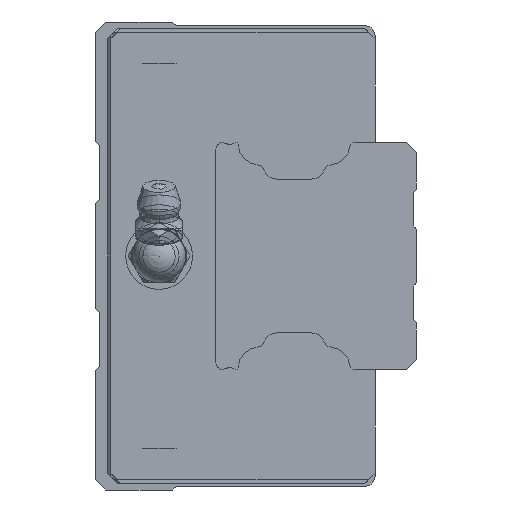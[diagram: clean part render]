
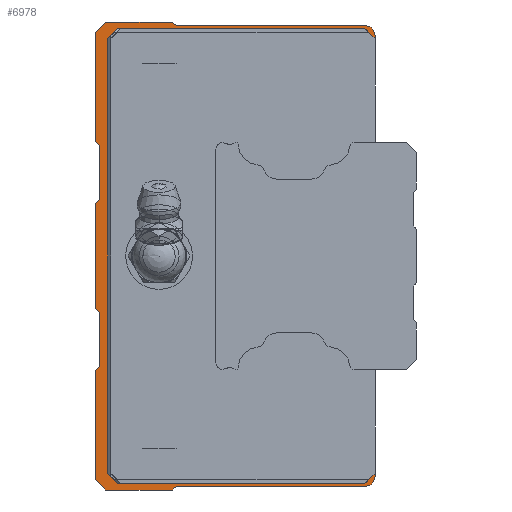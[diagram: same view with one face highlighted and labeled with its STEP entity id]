
A CAD part, left-side view. The second image highlights one B-rep face of the part: STEP entity #6978.
In plain terms, the highlighted planar face has unit normal (-1, 0, 0).
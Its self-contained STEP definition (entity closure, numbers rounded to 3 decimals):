
#75=LINE('',#10916,#553);
#84=LINE('',#10936,#562);
#93=LINE('',#10954,#571);
#119=LINE('',#11010,#597);
#127=LINE('',#11027,#605);
#135=LINE('',#11044,#613);
#160=LINE('',#11095,#638);
#165=LINE('',#11105,#643);
#169=LINE('',#11112,#647);
#173=LINE('',#11119,#651);
#177=LINE('',#11128,#655);
#180=LINE('',#11134,#658);
#184=LINE('',#11146,#662);
#188=LINE('',#11161,#666);
#192=LINE('',#11173,#670);
#195=LINE('',#11179,#673);
#198=LINE('',#11185,#676);
#201=LINE('',#11193,#679);
#204=LINE('',#11199,#682);
#208=LINE('',#11211,#686);
#212=LINE('',#11223,#690);
#215=LINE('',#11231,#693);
#218=LINE('',#11237,#696);
#222=LINE('',#11249,#700);
#226=LINE('',#11261,#704);
#229=LINE('',#11269,#707);
#553=VECTOR('',#8455,1000.);
#562=VECTOR('',#8470,1000.);
#571=VECTOR('',#8483,1000.);
#597=VECTOR('',#8523,1000.);
#605=VECTOR('',#8535,1000.);
#613=VECTOR('',#8549,1000.);
#638=VECTOR('',#8590,1000.);
#643=VECTOR('',#8597,1000.);
#647=VECTOR('',#8603,1000.);
#651=VECTOR('',#8609,1000.);
#655=VECTOR('',#8615,1000.);
#658=VECTOR('',#8620,1000.);
#662=VECTOR('',#8632,1000.);
#666=VECTOR('',#8650,1000.);
#670=VECTOR('',#8662,1000.);
#673=VECTOR('',#8667,1000.);
#676=VECTOR('',#8672,1000.);
#679=VECTOR('',#8679,1000.);
#682=VECTOR('',#8684,1000.);
#686=VECTOR('',#8696,1000.);
#690=VECTOR('',#8708,1000.);
#693=VECTOR('',#8715,1000.);
#696=VECTOR('',#8720,1000.);
#700=VECTOR('',#8732,1000.);
#704=VECTOR('',#8744,1000.);
#707=VECTOR('',#8751,1000.);
#1063=PLANE('',#7496);
#1591=CIRCLE('',#7455,0.5);
#1593=CIRCLE('',#7459,1.5);
#1595=CIRCLE('',#7462,1.5);
#1597=CIRCLE('',#7466,0.5);
#1600=CIRCLE('',#7475,0.5);
#1602=CIRCLE('',#7479,0.5);
#1605=CIRCLE('',#7486,0.5);
#1607=CIRCLE('',#7490,0.5);
#2329=ORIENTED_EDGE('',*,*,#3996,.T.);
#2330=ORIENTED_EDGE('',*,*,#4005,.T.);
#2331=ORIENTED_EDGE('',*,*,#4080,.F.);
#2332=ORIENTED_EDGE('',*,*,#4104,.F.);
#2333=ORIENTED_EDGE('',*,*,#4101,.F.);
#2334=ORIENTED_EDGE('',*,*,#4098,.T.);
#2335=ORIENTED_EDGE('',*,*,#4095,.F.);
#2336=ORIENTED_EDGE('',*,*,#4092,.F.);
#2337=ORIENTED_EDGE('',*,*,#4088,.F.);
#2338=ORIENTED_EDGE('',*,*,#4163,.F.);
#2339=ORIENTED_EDGE('',*,*,#4159,.F.);
#2340=ORIENTED_EDGE('',*,*,#4156,.T.);
#2341=ORIENTED_EDGE('',*,*,#4153,.F.);
#2342=ORIENTED_EDGE('',*,*,#4150,.T.);
#2343=ORIENTED_EDGE('',*,*,#4147,.F.);
#2344=ORIENTED_EDGE('',*,*,#4144,.F.);
#2345=ORIENTED_EDGE('',*,*,#4140,.F.);
#2346=ORIENTED_EDGE('',*,*,#4137,.T.);
#2347=ORIENTED_EDGE('',*,*,#4134,.F.);
#2348=ORIENTED_EDGE('',*,*,#4131,.T.);
#2349=ORIENTED_EDGE('',*,*,#4128,.F.);
#2350=ORIENTED_EDGE('',*,*,#4125,.F.);
#2351=ORIENTED_EDGE('',*,*,#4121,.F.);
#2352=ORIENTED_EDGE('',*,*,#4118,.F.);
#2353=ORIENTED_EDGE('',*,*,#4115,.F.);
#2354=ORIENTED_EDGE('',*,*,#4112,.T.);
#2355=ORIENTED_EDGE('',*,*,#4109,.F.);
#2356=ORIENTED_EDGE('',*,*,#4106,.F.);
#2357=ORIENTED_EDGE('',*,*,#4084,.F.);
#2358=ORIENTED_EDGE('',*,*,#4040,.T.);
#2359=ORIENTED_EDGE('',*,*,#4049,.T.);
#2360=ORIENTED_EDGE('',*,*,#4032,.T.);
#2361=ORIENTED_EDGE('',*,*,#4075,.T.);
#2362=ORIENTED_EDGE('',*,*,#3986,.T.);
#3986=EDGE_CURVE('',#4961,#4960,#75,.T.);
#3996=EDGE_CURVE('',#4960,#4968,#84,.T.);
#4005=EDGE_CURVE('',#4968,#4975,#93,.T.);
#4032=EDGE_CURVE('',#4999,#4998,#119,.T.);
#4040=EDGE_CURVE('',#5006,#5005,#127,.T.);
#4049=EDGE_CURVE('',#5005,#4999,#135,.T.);
#4075=EDGE_CURVE('',#4998,#4961,#160,.T.);
#4080=EDGE_CURVE('',#5033,#4975,#165,.T.);
#4084=EDGE_CURVE('',#5006,#5036,#169,.T.);
#4088=EDGE_CURVE('',#5038,#5039,#173,.T.);
#4092=EDGE_CURVE('',#5039,#5042,#177,.T.);
#4095=EDGE_CURVE('',#5042,#5044,#180,.T.);
#4098=EDGE_CURVE('',#5046,#5044,#1591,.T.);
#4101=EDGE_CURVE('',#5046,#5048,#184,.T.);
#4104=EDGE_CURVE('',#5048,#5033,#1593,.T.);
#4106=EDGE_CURVE('',#5036,#5050,#1595,.T.);
#4109=EDGE_CURVE('',#5050,#5052,#188,.T.);
#4112=EDGE_CURVE('',#5054,#5052,#1597,.T.);
#4115=EDGE_CURVE('',#5054,#5056,#192,.T.);
#4118=EDGE_CURVE('',#5056,#5058,#195,.T.);
#4121=EDGE_CURVE('',#5058,#5060,#198,.T.);
#4125=EDGE_CURVE('',#5060,#5063,#201,.T.);
#4128=EDGE_CURVE('',#5063,#5065,#204,.T.);
#4131=EDGE_CURVE('',#5067,#5065,#1600,.T.);
#4134=EDGE_CURVE('',#5067,#5069,#208,.T.);
#4137=EDGE_CURVE('',#5071,#5069,#1602,.T.);
#4140=EDGE_CURVE('',#5071,#5073,#212,.T.);
#4144=EDGE_CURVE('',#5073,#5076,#215,.T.);
#4147=EDGE_CURVE('',#5076,#5078,#218,.T.);
#4150=EDGE_CURVE('',#5080,#5078,#1605,.T.);
#4153=EDGE_CURVE('',#5080,#5082,#222,.T.);
#4156=EDGE_CURVE('',#5084,#5082,#1607,.T.);
#4159=EDGE_CURVE('',#5084,#5086,#226,.T.);
#4163=EDGE_CURVE('',#5086,#5038,#229,.T.);
#4960=VERTEX_POINT('',#10915);
#4961=VERTEX_POINT('',#10917);
#4968=VERTEX_POINT('',#10935);
#4975=VERTEX_POINT('',#10953);
#4998=VERTEX_POINT('',#11009);
#4999=VERTEX_POINT('',#11011);
#5005=VERTEX_POINT('',#11026);
#5006=VERTEX_POINT('',#11028);
#5033=VERTEX_POINT('',#11104);
#5036=VERTEX_POINT('',#11113);
#5038=VERTEX_POINT('',#11120);
#5039=VERTEX_POINT('',#11121);
#5042=VERTEX_POINT('',#11129);
#5044=VERTEX_POINT('',#11135);
#5046=VERTEX_POINT('',#11141);
#5048=VERTEX_POINT('',#11147);
#5050=VERTEX_POINT('',#11156);
#5052=VERTEX_POINT('',#11162);
#5054=VERTEX_POINT('',#11168);
#5056=VERTEX_POINT('',#11174);
#5058=VERTEX_POINT('',#11180);
#5060=VERTEX_POINT('',#11186);
#5063=VERTEX_POINT('',#11194);
#5065=VERTEX_POINT('',#11200);
#5067=VERTEX_POINT('',#11206);
#5069=VERTEX_POINT('',#11212);
#5071=VERTEX_POINT('',#11218);
#5073=VERTEX_POINT('',#11224);
#5076=VERTEX_POINT('',#11232);
#5078=VERTEX_POINT('',#11238);
#5080=VERTEX_POINT('',#11244);
#5082=VERTEX_POINT('',#11250);
#5084=VERTEX_POINT('',#11256);
#5086=VERTEX_POINT('',#11262);
#5726=EDGE_LOOP('',(#2329,#2330,#2331,#2332,#2333,#2334,#2335,#2336,#2337,
#2338,#2339,#2340,#2341,#2342,#2343,#2344,#2345,#2346,#2347,#2348,#2349,
#2350,#2351,#2352,#2353,#2354,#2355,#2356,#2357,#2358,#2359,#2360,#2361,
#2362));
#6349=FACE_BOUND('',#5726,.T.);
#6978=ADVANCED_FACE('',(#6349),#1063,.F.);
#7455=AXIS2_PLACEMENT_3D('',#11140,#8625,#8626);
#7459=AXIS2_PLACEMENT_3D('',#11152,#8637,#8638);
#7462=AXIS2_PLACEMENT_3D('',#11155,#8643,#8644);
#7466=AXIS2_PLACEMENT_3D('',#11167,#8655,#8656);
#7475=AXIS2_PLACEMENT_3D('',#11205,#8689,#8690);
#7479=AXIS2_PLACEMENT_3D('',#11217,#8701,#8702);
#7486=AXIS2_PLACEMENT_3D('',#11243,#8725,#8726);
#7490=AXIS2_PLACEMENT_3D('',#11255,#8737,#8738);
#7496=AXIS2_PLACEMENT_3D('',#11272,#8755,#8756);
#8455=DIRECTION('',(0.,-0.707,0.707));
#8470=DIRECTION('',(0.,-1.,0.));
#8483=DIRECTION('',(0.,-0.707,-0.707));
#8523=DIRECTION('',(0.,0.707,0.707));
#8535=DIRECTION('',(0.,0.707,-0.707));
#8549=DIRECTION('',(0.,1.,0.));
#8590=DIRECTION('',(0.,0.,1.));
#8597=DIRECTION('',(0.,0.,-1.));
#8603=DIRECTION('',(0.,0.,-1.));
#8609=DIRECTION('',(0.,-0.707,0.707));
#8615=DIRECTION('',(0.,-1.,0.));
#8620=DIRECTION('',(0.,-0.707,-0.707));
#8625=DIRECTION('',(1.,0.,0.));
#8626=DIRECTION('',(0.,0.,-1.));
#8632=DIRECTION('',(0.,-1.,0.));
#8637=DIRECTION('',(1.,0.,0.));
#8638=DIRECTION('',(0.,0.,-1.));
#8643=DIRECTION('',(1.,0.,0.));
#8644=DIRECTION('',(0.,0.,-1.));
#8650=DIRECTION('',(0.,1.,0.));
#8655=DIRECTION('',(1.,0.,0.));
#8656=DIRECTION('',(0.,0.,-1.));
#8662=DIRECTION('',(0.,0.707,-0.707));
#8667=DIRECTION('',(0.,1.,0.));
#8672=DIRECTION('',(0.,0.707,0.707));
#8679=DIRECTION('',(0.,0.,1.));
#8684=DIRECTION('',(0.,-0.707,0.707));
#8689=DIRECTION('',(1.,0.,0.));
#8690=DIRECTION('',(0.,0.,-1.));
#8696=DIRECTION('',(0.,0.,1.));
#8701=DIRECTION('',(1.,0.,0.));
#8702=DIRECTION('',(0.,0.,-1.));
#8708=DIRECTION('',(0.,0.707,0.707));
#8715=DIRECTION('',(0.,0.,1.));
#8720=DIRECTION('',(0.,-0.707,0.707));
#8725=DIRECTION('',(1.,0.,0.));
#8726=DIRECTION('',(0.,0.,-1.));
#8732=DIRECTION('',(0.,0.,1.));
#8737=DIRECTION('',(1.,0.,0.));
#8738=DIRECTION('',(0.,0.,-1.));
#8744=DIRECTION('',(0.,0.707,0.707));
#8751=DIRECTION('',(0.,0.,1.));
#8755=DIRECTION('',(1.,0.,0.));
#8756=DIRECTION('',(0.,0.,-1.));
#10915=CARTESIAN_POINT('',(-24.1,38.5,34.));
#10916=CARTESIAN_POINT('',(-24.1,40.,32.5));
#10917=CARTESIAN_POINT('',(-24.1,40.,32.5));
#10935=CARTESIAN_POINT('',(-24.1,1.5,34.));
#10936=CARTESIAN_POINT('',(-24.1,38.5,34.));
#10953=CARTESIAN_POINT('',(-24.1,0.,32.5));
#10954=CARTESIAN_POINT('',(-24.1,1.5,34.));
#11009=CARTESIAN_POINT('',(-24.1,40.,-32.5));
#11010=CARTESIAN_POINT('',(-24.1,38.5,-34.));
#11011=CARTESIAN_POINT('',(-24.1,38.5,-34.));
#11026=CARTESIAN_POINT('',(-24.1,1.5,-34.));
#11027=CARTESIAN_POINT('',(-24.1,0.,-32.5));
#11028=CARTESIAN_POINT('',(-24.1,0.,-32.5));
#11044=CARTESIAN_POINT('',(-24.1,1.5,-34.));
#11095=CARTESIAN_POINT('',(-24.1,40.,-32.5));
#11104=CARTESIAN_POINT('',(-24.1,0.,33.));
#11105=CARTESIAN_POINT('',(-24.1,0.,33.));
#11112=CARTESIAN_POINT('',(-24.1,0.,33.));
#11113=CARTESIAN_POINT('',(-24.1,0.,-33.));
#11119=CARTESIAN_POINT('',(-24.1,41.8,33.5));
#11120=CARTESIAN_POINT('',(-24.1,41.8,33.5));
#11121=CARTESIAN_POINT('',(-24.1,40.3,35.));
#11128=CARTESIAN_POINT('',(-24.1,40.3,35.));
#11129=CARTESIAN_POINT('',(-24.1,30.3,35.));
#11134=CARTESIAN_POINT('',(-24.1,30.3,35.));
#11135=CARTESIAN_POINT('',(-24.1,29.946,34.646));
#11140=CARTESIAN_POINT('',(-24.1,29.593,35.));
#11141=CARTESIAN_POINT('',(-24.1,29.593,34.5));
#11146=CARTESIAN_POINT('',(-24.1,29.593,34.5));
#11147=CARTESIAN_POINT('',(-24.1,1.5,34.5));
#11152=CARTESIAN_POINT('',(-24.1,1.5,33.));
#11155=CARTESIAN_POINT('',(-24.1,1.5,-33.));
#11156=CARTESIAN_POINT('',(-24.1,1.5,-34.5));
#11161=CARTESIAN_POINT('',(-24.1,1.5,-34.5));
#11162=CARTESIAN_POINT('',(-24.1,29.593,-34.5));
#11167=CARTESIAN_POINT('',(-24.1,29.593,-35.));
#11168=CARTESIAN_POINT('',(-24.1,29.946,-34.646));
#11173=CARTESIAN_POINT('',(-24.1,29.946,-34.646));
#11174=CARTESIAN_POINT('',(-24.1,30.3,-35.));
#11179=CARTESIAN_POINT('',(-24.1,30.3,-35.));
#11180=CARTESIAN_POINT('',(-24.1,40.3,-35.));
#11185=CARTESIAN_POINT('',(-24.1,40.3,-35.));
#11186=CARTESIAN_POINT('',(-24.1,41.8,-33.5));
#11193=CARTESIAN_POINT('',(-24.1,41.8,-33.5));
#11194=CARTESIAN_POINT('',(-24.1,41.8,-17.1));
#11199=CARTESIAN_POINT('',(-24.1,41.8,-17.1));
#11200=CARTESIAN_POINT('',(-24.1,41.346,-16.646));
#11205=CARTESIAN_POINT('',(-24.1,41.7,-16.293));
#11206=CARTESIAN_POINT('',(-24.1,41.2,-16.293));
#11211=CARTESIAN_POINT('',(-24.1,41.2,-16.293));
#11212=CARTESIAN_POINT('',(-24.1,41.2,-8.707));
#11217=CARTESIAN_POINT('',(-24.1,41.7,-8.707));
#11218=CARTESIAN_POINT('',(-24.1,41.346,-8.354));
#11223=CARTESIAN_POINT('',(-24.1,41.346,-8.354));
#11224=CARTESIAN_POINT('',(-24.1,41.8,-7.9));
#11231=CARTESIAN_POINT('',(-24.1,41.8,-7.9));
#11232=CARTESIAN_POINT('',(-24.1,41.8,7.9));
#11237=CARTESIAN_POINT('',(-24.1,41.8,7.9));
#11238=CARTESIAN_POINT('',(-24.1,41.346,8.354));
#11243=CARTESIAN_POINT('',(-24.1,41.7,8.707));
#11244=CARTESIAN_POINT('',(-24.1,41.2,8.707));
#11249=CARTESIAN_POINT('',(-24.1,41.2,8.707));
#11250=CARTESIAN_POINT('',(-24.1,41.2,16.293));
#11255=CARTESIAN_POINT('',(-24.1,41.7,16.293));
#11256=CARTESIAN_POINT('',(-24.1,41.346,16.646));
#11261=CARTESIAN_POINT('',(-24.1,41.346,16.646));
#11262=CARTESIAN_POINT('',(-24.1,41.8,17.1));
#11269=CARTESIAN_POINT('',(-24.1,41.8,17.1));
#11272=CARTESIAN_POINT('',(-24.1,29.593,35.));
